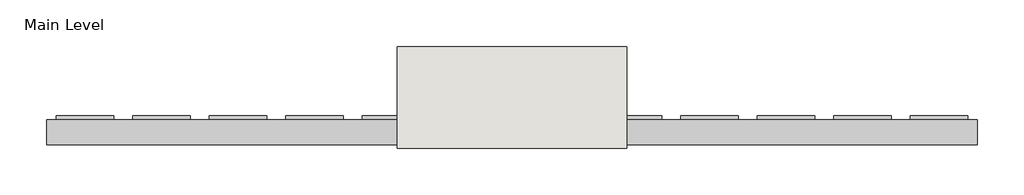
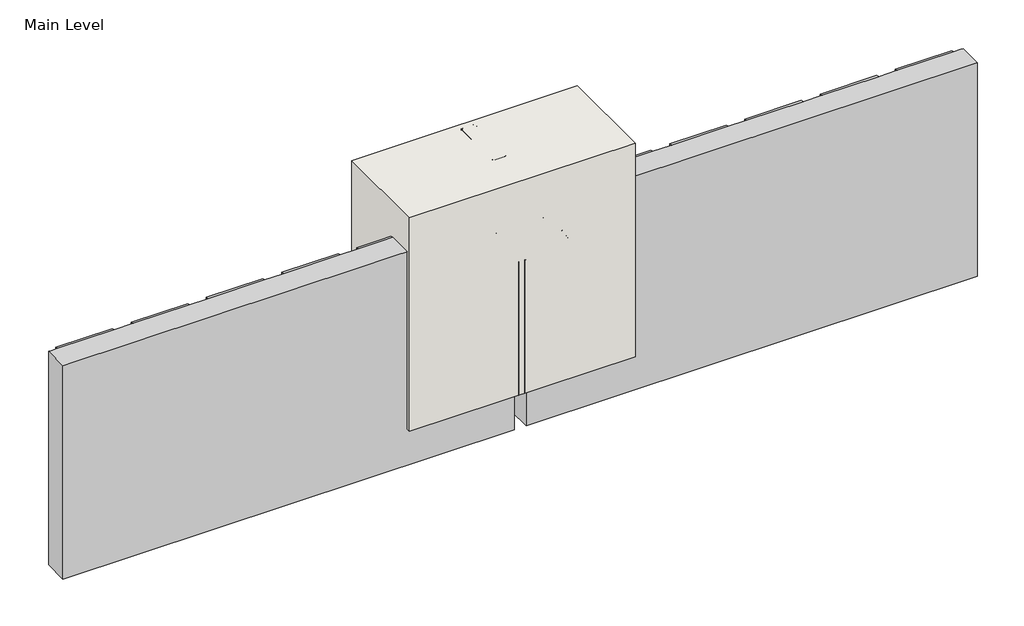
# One storey, incomplete: 12 proxies, 1 wall.
"""IFC4 building model written with IfcOpenShell, lengths in millimetres."""

from ifc_helpers import new_model, si_unit, origin, origin_with_axes, place, context, project, spatial, polyline, outline, extrude, transform, mapped, element, save
from components import generic_models_8c792c9c, generic_models_3031e4fa, generic_models_38adcc71, generic_models_03ec6e0e, proxy_8bbb4755, proxy_215900e5, proxy_5fc139d0, finish_coat_valley_finish_coat_valley_8a1e8f0d, proxy_d4c17246

model = new_model("IFC4")

# Units and contexts
model_context = context("Model", 3, world=origin())
ifc_project = project(units=[si_unit("LENGTHUNIT", "METRE", prefix="MILLI")], contexts=[model_context])

# Site, building, storey
site = spatial("IfcSite", under=ifc_project)
building = spatial("IfcBuilding", under=site)
storey = spatial("IfcBuildingStorey", under=building, Name="Main Level", Elevation=0.0)

# Proxies
placement = place(None, origin())
generic_models_shape = generic_models_8c792c9c(model_context)
element("IfcBuildingElementProxy", 1, Name="Durabond Generic Model Screw w Standard Wall Plate : Durabond Generic Model Screw w Standard Wall Plate", ObjectType="Durabond Generic Model Screw w Standard Wall Plate : Durabond Generic Model Screw w Standard Wall Plate", at=placement, inside=storey, context=model_context, shape_type="MappedRepresentation", body=[
    mapped(generic_models_shape, transform((26761.4289273, 547.4628797, 469.9), x_axis=(1.0, 0.0, 0.0), y_axis=(0.0, 0.0, 1.0), z_axis=(0.0, -1.0, 0.0))),
])
element("IfcBuildingElementProxy", 2, Name="Durabond Generic Model Screw w Standard Wall Plate : Durabond Generic Model Screw w Standard Wall Plate", ObjectType="Durabond Generic Model Screw w Standard Wall Plate : Durabond Generic Model Screw w Standard Wall Plate", at=placement, inside=storey, context=model_context, shape_type="MappedRepresentation", body=[
    mapped(generic_models_shape, transform((26939.2289273, 544.2878797, 419.1), x_axis=(1.0, 0.0, 0.0), y_axis=(0.0, 0.0, 1.0), z_axis=(0.0, -1.0, 0.0))),
])
generic_models_2_shape = generic_models_3031e4fa(model_context)
element("IfcBuildingElementProxy", 3, Name="Durabond Generic Model Screw w Standard Wall Plate : Durabond Generic Model Screw w Standard Wall Plate", ObjectType="Durabond Generic Model Screw w Standard Wall Plate : Durabond Generic Model Screw w Standard Wall Plate", at=placement, inside=storey, context=model_context, shape_type="MappedRepresentation", body=[
    mapped(generic_models_2_shape, transform((26888.4289273, 547.4628797, 469.9), x_axis=(-1.0, 0.0, 0.0), y_axis=(0.0, 0.0, -1.0), z_axis=(0.0, -1.0, 0.0))),
])
element("IfcBuildingElementProxy", 4, Name="Durabond Generic Model Screw w Standard Wall Plate : Durabond Generic Model Screw w Standard Wall Plate", ObjectType="Durabond Generic Model Screw w Standard Wall Plate : Durabond Generic Model Screw w Standard Wall Plate", at=placement, inside=storey, context=model_context, shape_type="MappedRepresentation", body=[
    mapped(generic_models_2_shape, transform((26710.6289273, 544.2878797, 419.1), x_axis=(-1.0, 0.0, 0.0), y_axis=(0.0, 0.0, -1.0), z_axis=(0.0, -1.0, 0.0))),
])
generic_models_3_shape = generic_models_38adcc71(model_context)
element("IfcBuildingElementProxy", 5, Name="CRAi Generic Model Backer Rod and Sealant : CRAi Generic Model Backer Rod and Sealant", ObjectType="CRAi Generic Model Backer Rod and Sealant : CRAi Generic Model Backer Rod and Sealant", at=placement, inside=storey, context=model_context, shape_type="MappedRepresentation", body=[
    mapped(generic_models_3_shape, transform((26824.9289273, 570.4816297, 0.0), x_axis=(1.0, 0.0, 0.0), y_axis=(0.0, 1.0, 0.0), z_axis=(0.0, 0.0, 1.0))),
])
generic_models_4_shape = generic_models_03ec6e0e(model_context)
element("IfcBuildingElementProxy", 6, Name="CRAi Generic Model Drywall Screw : CRAi Generic Model Drywall Screw", ObjectType="CRAi Generic Model Drywall Screw : CRAi Generic Model Drywall Screw", at=placement, inside=storey, context=model_context, shape_type="MappedRepresentation", body=[
    mapped(generic_models_4_shape, transform((26834.4539273, 627.6316297, 584.2), x_axis=(1.0, 0.0, 0.0), y_axis=(0.0, 0.0, 1.0), z_axis=(0.0, -1.0, 0.0))),
])
element("IfcBuildingElementProxy", 7, Name="CRAi Generic Model Drywall Screw : CRAi Generic Model Drywall Screw", ObjectType="CRAi Generic Model Drywall Screw : CRAi Generic Model Drywall Screw", at=placement, inside=storey, context=model_context, shape_type="MappedRepresentation", body=[
    mapped(generic_models_4_shape, transform((26815.4039273, 627.6316297, 584.2), x_axis=(1.0, 0.0, 0.0), y_axis=(0.0, 0.0, 1.0), z_axis=(0.0, -1.0, 0.0))),
])
proxy_shape = proxy_8bbb4755(model_context)
element("IfcBuildingElementProxy", 8, Name="Durabond Generic Model Insulite Select Extruded Insulation Board : 3\"", ObjectType="Durabond Generic Model Insulite Select Extruded Insulation Board : 3\"", at=placement, inside=storey, context=model_context, shape_type="MappedRepresentation", body=[
    mapped(proxy_shape, transform((27450.4039273, 624.4566297, 203.2), x_axis=(-1.0, 0.0, 0.0), y_axis=(0.0, 0.0, -1.0), z_axis=(0.0, -1.0, 0.0))),
])
proxy_2_shape = proxy_215900e5(model_context)
element("IfcBuildingElementProxy", 9, Name="Durabond Generic Model Insulite Select Extruded Insulation Board : 3\"", ObjectType="Durabond Generic Model Insulite Select Extruded Insulation Board : 3\"", at=placement, inside=storey, context=model_context, shape_type="MappedRepresentation", body=[
    mapped(proxy_2_shape, transform((26199.4539273, 624.4566297, 203.2), x_axis=(1.0, 0.0, 0.0), y_axis=(0.0, 0.0, 1.0), z_axis=(0.0, -1.0, 0.0))),
])
proxy_3_shape = proxy_5fc139d0(model_context)
element("IfcBuildingElementProxy", 10, Name="Durabond Generic Model Barrier Seam Tape Straight : 4\" Barrier Seam Tape", ObjectType="Durabond Generic Model Barrier Seam Tape Straight : 4\" Barrier Seam Tape", at=placement, inside=storey, context=model_context, shape_type="MappedRepresentation", body=[
    mapped(proxy_3_shape, transform((26875.7289273, 627.6316297, 0.0), x_axis=(1.0, 0.0, 0.0), y_axis=(0.0, 1.0, 0.0), z_axis=(0.0, 0.0, 1.0))),
])
finish_coat_valley_finish_coat_valley_shape = finish_coat_valley_finish_coat_valley_8a1e8f0d(model_context)
element("IfcBuildingElementProxy", 11, Name="Finish Coat Valley : Finish Coat Valley", ObjectType="Finish Coat Valley : Finish Coat Valley", at=placement, inside=storey, context=model_context, shape_type="MappedRepresentation", body=[
    mapped(finish_coat_valley_finish_coat_valley_shape, transform((0.0, 0.0, 0.0), x_axis=(1.0, 0.0, 0.0), y_axis=(0.0, 1.0, 0.0), z_axis=(0.0, 0.0, 1.0))),
])
proxy_4_shape = proxy_d4c17246(model_context)
element("IfcBuildingElementProxy", 12, Name="CRAi Generic Model Metal Stud : Metal Framing Stud - 1\" x 3.5\"", ObjectType="CRAi Generic Model Metal Stud : Metal Framing Stud - 1\" x 3.5\"", at=placement, inside=storey, context=model_context, shape_type="MappedRepresentation", body=[
    mapped(proxy_4_shape, transform((26824.9289273, 719.7066297, 0.0), x_axis=(1.0, 0.0, 0.0), y_axis=(0.0, 1.0, 0.0), z_axis=(0.0, 0.0, 1.0))),
])

# Wall
element("IfcWall", 13, ObjectType="189mm (7.5”) EIFS Field Applied on Mtl. Stud Layer - 50mm Grooved Insulation Board Metal Stud Wall(AirStop) 2", at=placement, inside=storey, context=model_context, shape_type="SweptSolid", body=[
    extrude(outline(polyline([(27129.7289273, 538.7316297), (26520.1289273, 538.7316297), (26520.1289273, 808.6066297), (27129.7289273, 808.6066297), (27129.7289273, 538.7316297)])), origin_with_axes(), (0.0, 0.0, 1.0), 609.6),
])

save(model, "model.ifc")
